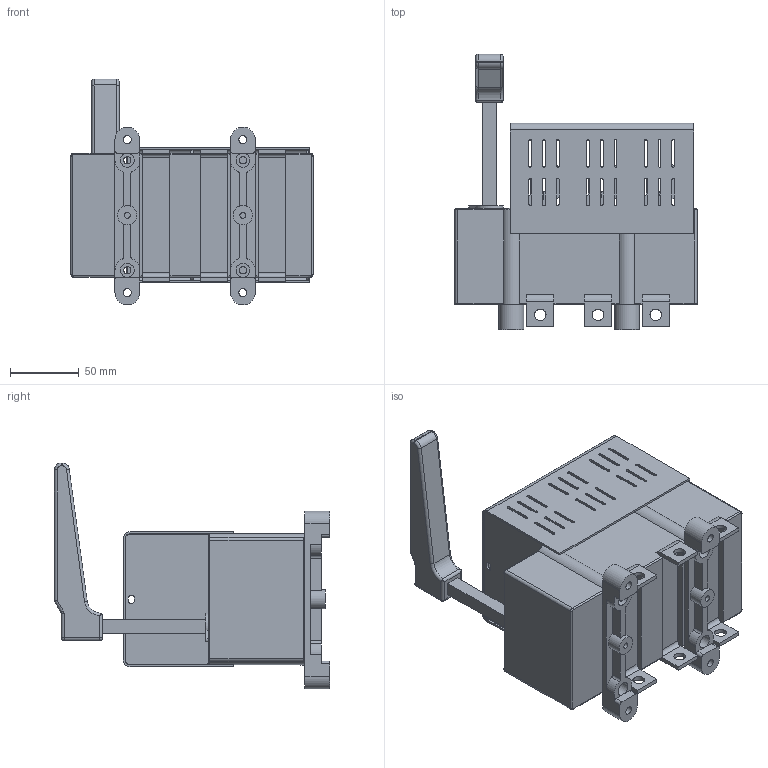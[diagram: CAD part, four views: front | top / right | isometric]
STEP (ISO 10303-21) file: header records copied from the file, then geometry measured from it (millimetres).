
FILE_DESCRIPTION(/* description */ (''),/* implementation_level */ '2;1');
FILE_NAME(/* name */ 'RAB 00 P3 C-R.stp',/* time_stamp */ '2021-08-19T11:43:38+02:00',/* author */ (''),/* organization */ (''),/* preprocessor_version */ 'ST-DEVELOPER v18.1',/* originating_system */ 'SIEMENS PLM Software NX 1965',/* authorisation */ '');
FILE_SCHEMA (('PROCESS_PLANNING_SCHEMA','AP242_MANAGED_MODEL_BASED_3D_ENGINEERING_MIM_LF { 1 0 10303 442 1 1 4 }'));
Length unit declared in the file: millimetre
Products named in the file (1): RAB 00 P3 C-R_stp
Bounding box: 176 x 200 x 164.18 mm (x, y, z)
Volume: 1286919.5 mm3; surface area: 232225.6 mm2
Topology: 1 solids, 1 shells, 904 faces, 2547 edges, 1648 vertices
Faces by surface type: plane 544, cylinder 334, torus 15, sphere 6, bspline 5
Full cylindrical faces by diameter (mm): 2.7 x4, 4.3 x2, 5 x6, 5.3 x4, 5.8 x4, 8.5 x6, 10 x8, 14 x2
Entity records: 29156 total; most frequent: CARTESIAN_POINT 5240, ORIENTED_EDGE 4970, DIRECTION 4953, EDGE_CURVE 2485, LINE 1755, VECTOR 1755, VERTEX_POINT 1628, AXIS2_PLACEMENT_3D 1599
